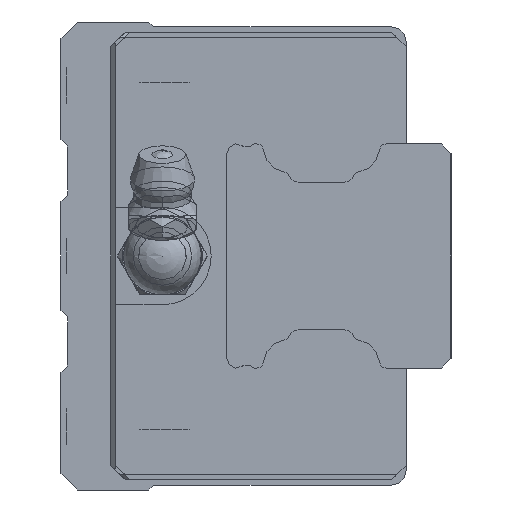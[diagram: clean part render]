
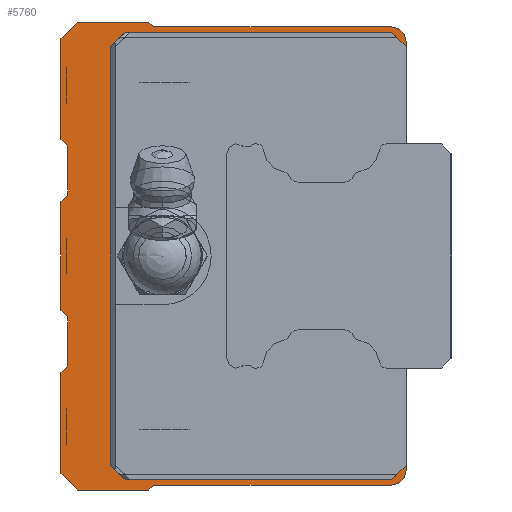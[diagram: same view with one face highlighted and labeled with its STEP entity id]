
A CAD part, left-side view. The second image highlights one B-rep face of the part: STEP entity #5760.
In plain terms, the highlighted planar face has unit normal (-1, 0, 0).
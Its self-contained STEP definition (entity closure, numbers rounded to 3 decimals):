
#78=LINE('',#8948,#428);
#87=LINE('',#8968,#437);
#96=LINE('',#8986,#446);
#122=LINE('',#9042,#472);
#130=LINE('',#9059,#480);
#138=LINE('',#9076,#488);
#163=LINE('',#9127,#513);
#193=LINE('',#9232,#543);
#195=LINE('',#9236,#545);
#216=LINE('',#9326,#566);
#220=LINE('',#9335,#570);
#223=LINE('',#9341,#573);
#227=LINE('',#9353,#577);
#231=LINE('',#9368,#581);
#235=LINE('',#9380,#585);
#238=LINE('',#9386,#588);
#241=LINE('',#9392,#591);
#244=LINE('',#9402,#594);
#247=LINE('',#9408,#597);
#251=LINE('',#9420,#601);
#255=LINE('',#9432,#605);
#258=LINE('',#9442,#608);
#261=LINE('',#9448,#611);
#265=LINE('',#9460,#615);
#269=LINE('',#9472,#619);
#272=LINE('',#9482,#622);
#428=VECTOR('',#6987,1000.);
#437=VECTOR('',#7002,1000.);
#446=VECTOR('',#7015,1000.);
#472=VECTOR('',#7055,1000.);
#480=VECTOR('',#7067,1000.);
#488=VECTOR('',#7081,1000.);
#513=VECTOR('',#7122,1000.);
#543=VECTOR('',#7208,1000.);
#545=VECTOR('',#7212,1000.);
#566=VECTOR('',#7287,1000.);
#570=VECTOR('',#7293,1000.);
#573=VECTOR('',#7298,1000.);
#577=VECTOR('',#7310,1000.);
#581=VECTOR('',#7328,1000.);
#585=VECTOR('',#7340,1000.);
#588=VECTOR('',#7345,1000.);
#591=VECTOR('',#7350,1000.);
#594=VECTOR('',#7359,1000.);
#597=VECTOR('',#7364,1000.);
#601=VECTOR('',#7376,1000.);
#605=VECTOR('',#7388,1000.);
#608=VECTOR('',#7397,1000.);
#611=VECTOR('',#7402,1000.);
#615=VECTOR('',#7414,1000.);
#619=VECTOR('',#7426,1000.);
#622=VECTOR('',#7435,1000.);
#813=PLANE('',#6270);
#1169=CIRCLE('',#6226,0.5);
#1171=CIRCLE('',#6230,1.5);
#1173=CIRCLE('',#6233,1.5);
#1175=CIRCLE('',#6237,0.5);
#1179=CIRCLE('',#6247,0.5);
#1181=CIRCLE('',#6251,0.5);
#1185=CIRCLE('',#6259,0.5);
#1187=CIRCLE('',#6263,0.5);
#1991=ORIENTED_EDGE('',*,*,#3045,.T.);
#1992=ORIENTED_EDGE('',*,*,#3054,.T.);
#1993=ORIENTED_EDGE('',*,*,#3179,.F.);
#1994=ORIENTED_EDGE('',*,*,#3243,.F.);
#1995=ORIENTED_EDGE('',*,*,#3240,.F.);
#1996=ORIENTED_EDGE('',*,*,#3237,.T.);
#1997=ORIENTED_EDGE('',*,*,#3234,.F.);
#1998=ORIENTED_EDGE('',*,*,#3231,.F.);
#1999=ORIENTED_EDGE('',*,*,#3227,.F.);
#2000=ORIENTED_EDGE('',*,*,#3305,.F.);
#2001=ORIENTED_EDGE('',*,*,#3300,.F.);
#2002=ORIENTED_EDGE('',*,*,#3297,.T.);
#2003=ORIENTED_EDGE('',*,*,#3294,.F.);
#2004=ORIENTED_EDGE('',*,*,#3291,.T.);
#2005=ORIENTED_EDGE('',*,*,#3288,.F.);
#2006=ORIENTED_EDGE('',*,*,#3285,.F.);
#2007=ORIENTED_EDGE('',*,*,#3280,.F.);
#2008=ORIENTED_EDGE('',*,*,#3277,.T.);
#2009=ORIENTED_EDGE('',*,*,#3274,.F.);
#2010=ORIENTED_EDGE('',*,*,#3271,.T.);
#2011=ORIENTED_EDGE('',*,*,#3268,.F.);
#2012=ORIENTED_EDGE('',*,*,#3265,.F.);
#2013=ORIENTED_EDGE('',*,*,#3260,.F.);
#2014=ORIENTED_EDGE('',*,*,#3257,.F.);
#2015=ORIENTED_EDGE('',*,*,#3254,.F.);
#2016=ORIENTED_EDGE('',*,*,#3251,.T.);
#2017=ORIENTED_EDGE('',*,*,#3248,.F.);
#2018=ORIENTED_EDGE('',*,*,#3245,.F.);
#2019=ORIENTED_EDGE('',*,*,#3181,.F.);
#2020=ORIENTED_EDGE('',*,*,#3089,.T.);
#2021=ORIENTED_EDGE('',*,*,#3098,.T.);
#2022=ORIENTED_EDGE('',*,*,#3081,.T.);
#2023=ORIENTED_EDGE('',*,*,#3124,.T.);
#2024=ORIENTED_EDGE('',*,*,#3035,.T.);
#3035=EDGE_CURVE('',#3757,#3756,#78,.T.);
#3045=EDGE_CURVE('',#3756,#3764,#87,.T.);
#3054=EDGE_CURVE('',#3764,#3771,#96,.T.);
#3081=EDGE_CURVE('',#3795,#3794,#122,.T.);
#3089=EDGE_CURVE('',#3802,#3801,#130,.T.);
#3098=EDGE_CURVE('',#3801,#3795,#138,.T.);
#3124=EDGE_CURVE('',#3794,#3757,#163,.T.);
#3179=EDGE_CURVE('',#3872,#3771,#193,.T.);
#3181=EDGE_CURVE('',#3802,#3874,#195,.T.);
#3227=EDGE_CURVE('',#3916,#3917,#216,.T.);
#3231=EDGE_CURVE('',#3917,#3920,#220,.T.);
#3234=EDGE_CURVE('',#3920,#3922,#223,.T.);
#3237=EDGE_CURVE('',#3924,#3922,#1169,.T.);
#3240=EDGE_CURVE('',#3924,#3926,#227,.T.);
#3243=EDGE_CURVE('',#3926,#3872,#1171,.T.);
#3245=EDGE_CURVE('',#3874,#3928,#1173,.T.);
#3248=EDGE_CURVE('',#3928,#3930,#231,.T.);
#3251=EDGE_CURVE('',#3932,#3930,#1175,.T.);
#3254=EDGE_CURVE('',#3932,#3934,#235,.T.);
#3257=EDGE_CURVE('',#3934,#3936,#238,.T.);
#3260=EDGE_CURVE('',#3936,#3938,#241,.T.);
#3265=EDGE_CURVE('',#3938,#3942,#244,.T.);
#3268=EDGE_CURVE('',#3942,#3944,#247,.T.);
#3271=EDGE_CURVE('',#3946,#3944,#1179,.T.);
#3274=EDGE_CURVE('',#3946,#3948,#251,.T.);
#3277=EDGE_CURVE('',#3950,#3948,#1181,.T.);
#3280=EDGE_CURVE('',#3950,#3952,#255,.T.);
#3285=EDGE_CURVE('',#3952,#3956,#258,.T.);
#3288=EDGE_CURVE('',#3956,#3958,#261,.T.);
#3291=EDGE_CURVE('',#3960,#3958,#1185,.T.);
#3294=EDGE_CURVE('',#3960,#3962,#265,.T.);
#3297=EDGE_CURVE('',#3964,#3962,#1187,.T.);
#3300=EDGE_CURVE('',#3964,#3966,#269,.T.);
#3305=EDGE_CURVE('',#3966,#3916,#272,.T.);
#3756=VERTEX_POINT('',#8947);
#3757=VERTEX_POINT('',#8949);
#3764=VERTEX_POINT('',#8967);
#3771=VERTEX_POINT('',#8985);
#3794=VERTEX_POINT('',#9041);
#3795=VERTEX_POINT('',#9043);
#3801=VERTEX_POINT('',#9058);
#3802=VERTEX_POINT('',#9060);
#3872=VERTEX_POINT('',#9231);
#3874=VERTEX_POINT('',#9237);
#3916=VERTEX_POINT('',#9327);
#3917=VERTEX_POINT('',#9328);
#3920=VERTEX_POINT('',#9336);
#3922=VERTEX_POINT('',#9342);
#3924=VERTEX_POINT('',#9348);
#3926=VERTEX_POINT('',#9354);
#3928=VERTEX_POINT('',#9363);
#3930=VERTEX_POINT('',#9369);
#3932=VERTEX_POINT('',#9375);
#3934=VERTEX_POINT('',#9381);
#3936=VERTEX_POINT('',#9387);
#3938=VERTEX_POINT('',#9393);
#3942=VERTEX_POINT('',#9403);
#3944=VERTEX_POINT('',#9409);
#3946=VERTEX_POINT('',#9415);
#3948=VERTEX_POINT('',#9421);
#3950=VERTEX_POINT('',#9427);
#3952=VERTEX_POINT('',#9433);
#3956=VERTEX_POINT('',#9443);
#3958=VERTEX_POINT('',#9449);
#3960=VERTEX_POINT('',#9455);
#3962=VERTEX_POINT('',#9461);
#3964=VERTEX_POINT('',#9467);
#3966=VERTEX_POINT('',#9473);
#4418=EDGE_LOOP('',(#1991,#1992,#1993,#1994,#1995,#1996,#1997,#1998,#1999,
#2000,#2001,#2002,#2003,#2004,#2005,#2006,#2007,#2008,#2009,#2010,#2011,
#2012,#2013,#2014,#2015,#2016,#2017,#2018,#2019,#2020,#2021,#2022,#2023,
#2024));
#5083=FACE_BOUND('',#4418,.T.);
#5760=ADVANCED_FACE('',(#5083),#813,.F.);
#6226=AXIS2_PLACEMENT_3D('',#9347,#7303,#7304);
#6230=AXIS2_PLACEMENT_3D('',#9359,#7315,#7316);
#6233=AXIS2_PLACEMENT_3D('',#9362,#7321,#7322);
#6237=AXIS2_PLACEMENT_3D('',#9374,#7333,#7334);
#6247=AXIS2_PLACEMENT_3D('',#9414,#7369,#7370);
#6251=AXIS2_PLACEMENT_3D('',#9426,#7381,#7382);
#6259=AXIS2_PLACEMENT_3D('',#9454,#7407,#7408);
#6263=AXIS2_PLACEMENT_3D('',#9466,#7419,#7420);
#6270=AXIS2_PLACEMENT_3D('',#9485,#7439,#7440);
#6987=DIRECTION('',(0.,-0.707,0.707));
#7002=DIRECTION('',(0.,-1.,0.));
#7015=DIRECTION('',(0.,-0.707,-0.707));
#7055=DIRECTION('',(0.,0.707,0.707));
#7067=DIRECTION('',(0.,0.707,-0.707));
#7081=DIRECTION('',(0.,1.,0.));
#7122=DIRECTION('',(0.,0.,1.));
#7208=DIRECTION('',(0.,0.,-1.));
#7212=DIRECTION('',(0.,0.,-1.));
#7287=DIRECTION('',(0.,-0.707,0.707));
#7293=DIRECTION('',(0.,-1.,0.));
#7298=DIRECTION('',(0.,-0.707,-0.707));
#7303=DIRECTION('',(1.,0.,0.));
#7304=DIRECTION('',(0.,0.,-1.));
#7310=DIRECTION('',(0.,-1.,0.));
#7315=DIRECTION('',(1.,0.,0.));
#7316=DIRECTION('',(0.,0.,-1.));
#7321=DIRECTION('',(1.,0.,0.));
#7322=DIRECTION('',(0.,0.,-1.));
#7328=DIRECTION('',(0.,1.,0.));
#7333=DIRECTION('',(1.,0.,0.));
#7334=DIRECTION('',(0.,0.,-1.));
#7340=DIRECTION('',(0.,0.707,-0.707));
#7345=DIRECTION('',(0.,1.,0.));
#7350=DIRECTION('',(0.,0.707,0.707));
#7359=DIRECTION('',(0.,0.,1.));
#7364=DIRECTION('',(0.,-0.707,0.707));
#7369=DIRECTION('',(1.,0.,0.));
#7370=DIRECTION('',(0.,0.,-1.));
#7376=DIRECTION('',(0.,0.,1.));
#7381=DIRECTION('',(1.,0.,0.));
#7382=DIRECTION('',(0.,0.,-1.));
#7388=DIRECTION('',(0.,0.707,0.707));
#7397=DIRECTION('',(0.,0.,1.));
#7402=DIRECTION('',(0.,-0.707,0.707));
#7407=DIRECTION('',(1.,0.,0.));
#7408=DIRECTION('',(0.,0.,-1.));
#7414=DIRECTION('',(0.,0.,1.));
#7419=DIRECTION('',(1.,0.,0.));
#7420=DIRECTION('',(0.,0.,-1.));
#7426=DIRECTION('',(0.,0.707,0.707));
#7435=DIRECTION('',(0.,0.,1.));
#7439=DIRECTION('',(1.,0.,0.));
#7440=DIRECTION('',(0.,0.,-1.));
#8947=CARTESIAN_POINT('',(-38.45,28.82,22.95));
#8948=CARTESIAN_POINT('',(-38.45,30.32,21.45));
#8949=CARTESIAN_POINT('',(-38.45,30.32,21.45));
#8967=CARTESIAN_POINT('',(-38.45,1.5,22.95));
#8968=CARTESIAN_POINT('',(-38.45,28.82,22.95));
#8985=CARTESIAN_POINT('',(-38.45,0.,21.45));
#8986=CARTESIAN_POINT('',(-38.45,1.5,22.95));
#9041=CARTESIAN_POINT('',(-38.45,30.32,-21.45));
#9042=CARTESIAN_POINT('',(-38.45,28.82,-22.95));
#9043=CARTESIAN_POINT('',(-38.45,28.82,-22.95));
#9058=CARTESIAN_POINT('',(-38.45,1.5,-22.95));
#9059=CARTESIAN_POINT('',(-38.45,0.,-21.45));
#9060=CARTESIAN_POINT('',(-38.45,0.,-21.45));
#9076=CARTESIAN_POINT('',(-38.45,1.5,-22.95));
#9127=CARTESIAN_POINT('',(-38.45,30.32,-21.45));
#9231=CARTESIAN_POINT('',(-38.45,0.,22.));
#9232=CARTESIAN_POINT('',(-38.45,0.,22.));
#9236=CARTESIAN_POINT('',(-38.45,0.,22.));
#9237=CARTESIAN_POINT('',(-38.45,0.,-22.));
#9326=CARTESIAN_POINT('',(-38.45,35.4,22.3));
#9327=CARTESIAN_POINT('',(-38.45,35.4,22.3));
#9328=CARTESIAN_POINT('',(-38.45,33.7,24.));
#9335=CARTESIAN_POINT('',(-38.45,33.7,24.));
#9336=CARTESIAN_POINT('',(-38.45,26.4,24.));
#9341=CARTESIAN_POINT('',(-38.45,26.4,24.));
#9342=CARTESIAN_POINT('',(-38.45,26.046,23.646));
#9347=CARTESIAN_POINT('',(-38.45,25.693,24.));
#9348=CARTESIAN_POINT('',(-38.45,25.693,23.5));
#9353=CARTESIAN_POINT('',(-38.45,25.693,23.5));
#9354=CARTESIAN_POINT('',(-38.45,1.5,23.5));
#9359=CARTESIAN_POINT('',(-38.45,1.5,22.));
#9362=CARTESIAN_POINT('',(-38.45,1.5,-22.));
#9363=CARTESIAN_POINT('',(-38.45,1.5,-23.5));
#9368=CARTESIAN_POINT('',(-38.45,1.5,-23.5));
#9369=CARTESIAN_POINT('',(-38.45,25.693,-23.5));
#9374=CARTESIAN_POINT('',(-38.45,25.693,-24.));
#9375=CARTESIAN_POINT('',(-38.45,26.046,-23.646));
#9380=CARTESIAN_POINT('',(-38.45,26.046,-23.646));
#9381=CARTESIAN_POINT('',(-38.45,26.4,-24.));
#9386=CARTESIAN_POINT('',(-38.45,26.4,-24.));
#9387=CARTESIAN_POINT('',(-38.45,33.7,-24.));
#9392=CARTESIAN_POINT('',(-38.45,33.7,-24.));
#9393=CARTESIAN_POINT('',(-38.45,35.4,-22.3));
#9402=CARTESIAN_POINT('',(-38.45,35.4,-22.3));
#9403=CARTESIAN_POINT('',(-38.45,35.4,-11.95));
#9408=CARTESIAN_POINT('',(-38.45,35.4,-11.95));
#9409=CARTESIAN_POINT('',(-38.45,34.846,-11.396));
#9414=CARTESIAN_POINT('',(-38.45,35.2,-11.043));
#9415=CARTESIAN_POINT('',(-38.45,34.7,-11.043));
#9420=CARTESIAN_POINT('',(-38.45,34.7,-11.043));
#9421=CARTESIAN_POINT('',(-38.45,34.7,-6.457));
#9426=CARTESIAN_POINT('',(-38.45,35.2,-6.457));
#9427=CARTESIAN_POINT('',(-38.45,34.846,-6.104));
#9432=CARTESIAN_POINT('',(-38.45,34.846,-6.104));
#9433=CARTESIAN_POINT('',(-38.45,35.4,-5.55));
#9442=CARTESIAN_POINT('',(-38.45,35.4,-5.55));
#9443=CARTESIAN_POINT('',(-38.45,35.4,5.55));
#9448=CARTESIAN_POINT('',(-38.45,35.4,5.55));
#9449=CARTESIAN_POINT('',(-38.45,34.846,6.104));
#9454=CARTESIAN_POINT('',(-38.45,35.2,6.457));
#9455=CARTESIAN_POINT('',(-38.45,34.7,6.457));
#9460=CARTESIAN_POINT('',(-38.45,34.7,6.457));
#9461=CARTESIAN_POINT('',(-38.45,34.7,11.043));
#9466=CARTESIAN_POINT('',(-38.45,35.2,11.043));
#9467=CARTESIAN_POINT('',(-38.45,34.846,11.396));
#9472=CARTESIAN_POINT('',(-38.45,34.846,11.396));
#9473=CARTESIAN_POINT('',(-38.45,35.4,11.95));
#9482=CARTESIAN_POINT('',(-38.45,35.4,11.95));
#9485=CARTESIAN_POINT('',(-38.45,25.693,24.));
